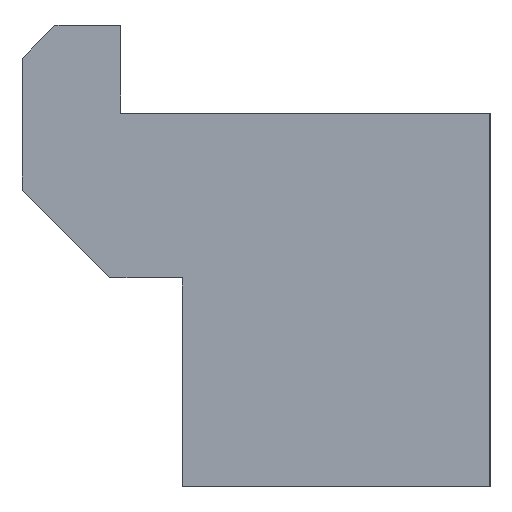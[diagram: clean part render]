
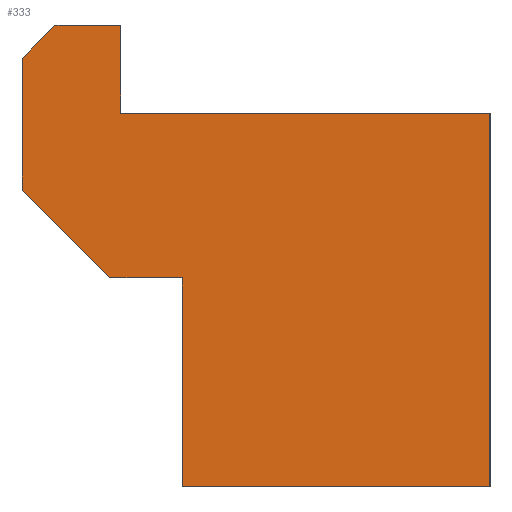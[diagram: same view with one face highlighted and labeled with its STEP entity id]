
A CAD part, left-side view. The second image highlights one B-rep face of the part: STEP entity #333.
In plain terms, the highlighted planar face has unit normal (-1, 0, 0).
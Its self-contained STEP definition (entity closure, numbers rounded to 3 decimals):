
#2=DIRECTION('',(0.,-1.,0.));
#3=VECTOR('',#2,16.8);
#4=CARTESIAN_POINT('',(-27.5,9.8,0.));
#5=LINE('',#4,#3);
#6=DIRECTION('',(0.,0.,-1.));
#7=VECTOR('',#6,17.);
#8=CARTESIAN_POINT('',(-27.5,-7.,0.));
#9=LINE('',#8,#7);
#10=DIRECTION('',(0.,1.,0.));
#11=VECTOR('',#10,14.);
#12=CARTESIAN_POINT('',(-27.5,-7.,-17.));
#13=LINE('',#12,#11);
#14=DIRECTION('',(0.,0.,1.));
#15=VECTOR('',#14,9.5);
#16=CARTESIAN_POINT('',(-27.5,7.,-17.));
#17=LINE('',#16,#15);
#18=DIRECTION('',(0.,1.,0.));
#19=VECTOR('',#18,3.3);
#20=CARTESIAN_POINT('',(-27.5,7.,-7.5));
#21=LINE('',#20,#19);
#22=DIRECTION('',(0.,0.707,0.707));
#23=VECTOR('',#22,5.657);
#24=CARTESIAN_POINT('',(-27.5,10.3,-7.5));
#25=LINE('',#24,#23);
#26=DIRECTION('',(0.,0.,1.));
#27=VECTOR('',#26,6.);
#28=CARTESIAN_POINT('',(-27.5,14.3,-3.5));
#29=LINE('',#28,#27);
#30=DIRECTION('',(0.,-0.707,0.707));
#31=VECTOR('',#30,2.121);
#32=CARTESIAN_POINT('',(-27.5,14.3,2.5));
#33=LINE('',#32,#31);
#34=DIRECTION('',(0.,-1.,0.));
#35=VECTOR('',#34,3.);
#36=CARTESIAN_POINT('',(-27.5,12.8,4.));
#37=LINE('',#36,#35);
#38=DIRECTION('',(0.,0.,-1.));
#39=VECTOR('',#38,4.);
#40=CARTESIAN_POINT('',(-27.5,9.8,4.));
#41=LINE('',#40,#39);
#234=CARTESIAN_POINT('',(-27.5,9.8,0.));
#235=CARTESIAN_POINT('',(-27.5,-7.,0.));
#236=VERTEX_POINT('',#234);
#237=VERTEX_POINT('',#235);
#238=CARTESIAN_POINT('',(-27.5,-7.,-17.));
#239=VERTEX_POINT('',#238);
#240=CARTESIAN_POINT('',(-27.5,7.,-17.));
#241=VERTEX_POINT('',#240);
#242=CARTESIAN_POINT('',(-27.5,7.,-7.5));
#243=VERTEX_POINT('',#242);
#244=CARTESIAN_POINT('',(-27.5,10.3,-7.5));
#245=VERTEX_POINT('',#244);
#246=CARTESIAN_POINT('',(-27.5,14.3,-3.5));
#247=VERTEX_POINT('',#246);
#248=CARTESIAN_POINT('',(-27.5,14.3,2.5));
#249=VERTEX_POINT('',#248);
#250=CARTESIAN_POINT('',(-27.5,12.8,4.));
#251=VERTEX_POINT('',#250);
#252=CARTESIAN_POINT('',(-27.5,9.8,4.));
#253=VERTEX_POINT('',#252);
#306=CARTESIAN_POINT('',(-27.5,0.,0.));
#307=DIRECTION('',(1.,0.,0.));
#308=DIRECTION('',(0.,0.,-1.));
#309=AXIS2_PLACEMENT_3D('',#306,#307,#308);
#310=PLANE('',#309);
#312=ORIENTED_EDGE('',*,*,#311,.T.);
#314=ORIENTED_EDGE('',*,*,#313,.T.);
#316=ORIENTED_EDGE('',*,*,#315,.T.);
#318=ORIENTED_EDGE('',*,*,#317,.T.);
#320=ORIENTED_EDGE('',*,*,#319,.T.);
#322=ORIENTED_EDGE('',*,*,#321,.T.);
#324=ORIENTED_EDGE('',*,*,#323,.T.);
#326=ORIENTED_EDGE('',*,*,#325,.T.);
#328=ORIENTED_EDGE('',*,*,#327,.T.);
#330=ORIENTED_EDGE('',*,*,#329,.T.);
#331=EDGE_LOOP('',(#312,#314,#316,#318,#320,#322,#324,#326,#328,#330));
#332=FACE_OUTER_BOUND('',#331,.F.);
#311=EDGE_CURVE('',#236,#237,#5,.T.);
#313=EDGE_CURVE('',#237,#239,#9,.T.);
#315=EDGE_CURVE('',#239,#241,#13,.T.);
#317=EDGE_CURVE('',#241,#243,#17,.T.);
#319=EDGE_CURVE('',#243,#245,#21,.T.);
#321=EDGE_CURVE('',#245,#247,#25,.T.);
#323=EDGE_CURVE('',#247,#249,#29,.T.);
#325=EDGE_CURVE('',#249,#251,#33,.T.);
#327=EDGE_CURVE('',#251,#253,#37,.T.);
#329=EDGE_CURVE('',#253,#236,#41,.T.);
#333=ADVANCED_FACE('',(#332),#310,.F.);
